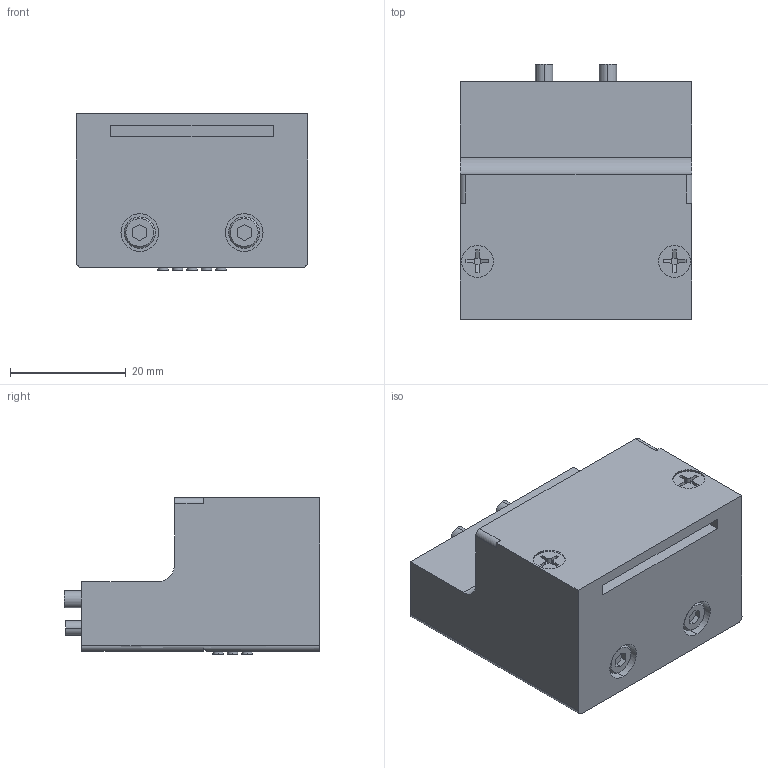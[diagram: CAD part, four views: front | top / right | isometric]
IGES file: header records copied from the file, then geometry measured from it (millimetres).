
Start section: 3D InterOp IGES (v. 2022 1.0.0), Spatial Corp. Copyright (c) 1999-2020.
Global section: file name: KHG-12RS-D315_ver1.igs; native system: Spatial Corp.; preprocessor: 3D InterOp GENERIC/IGES 3.0; author: Noname; organization: Noname; date: 20260518.090829; units: millimetre
Bounding box: 40 x 44 x 27 mm (x, y, z)
Surface area: 10970.3 mm2 (no closed solid volume)
Topology: 0 solids, 0 shells, 368 faces, 1656 edges, 1656 vertices
Faces by surface type: extrusion 189, revolution 179
